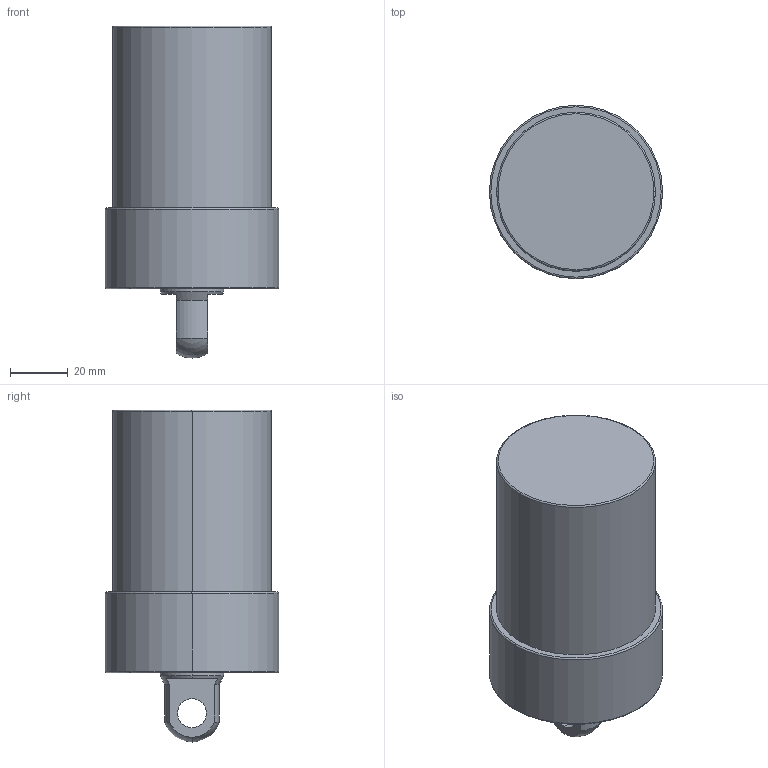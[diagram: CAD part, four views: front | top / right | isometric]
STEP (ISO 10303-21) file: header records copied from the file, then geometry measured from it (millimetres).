
FILE_DESCRIPTION (( 'STEP AP203' ), '1' );
FILE_NAME ('CLLU055-CP-050.STEP', '2017-05-12T10:47:31', ( '' ), ( '' ), 'SwSTEP 2.0', 'SolidWorks 2015', '' );
FILE_SCHEMA (( 'CONFIG_CONTROL_DESIGN' ));
Length unit declared in the file: millimetre
Products named in the file (1): CLLU055-CP-050
Bounding box: 60 x 60 x 115 mm (x, y, z)
Volume: 231074.7 mm3; surface area: 24139.3 mm2
Topology: 1 solids, 1 shells, 57 faces, 130 edges, 75 vertices
Faces by surface type: cylinder 22, cone 18, plane 9, torus 6, sphere 2
Entity records: 1643 total; most frequent: DIRECTION 308, CARTESIAN_POINT 267, ORIENTED_EDGE 244, AXIS2_PLACEMENT_3D 132, EDGE_CURVE 122, VERTEX_POINT 75, CIRCLE 74, EDGE_LOOP 67
